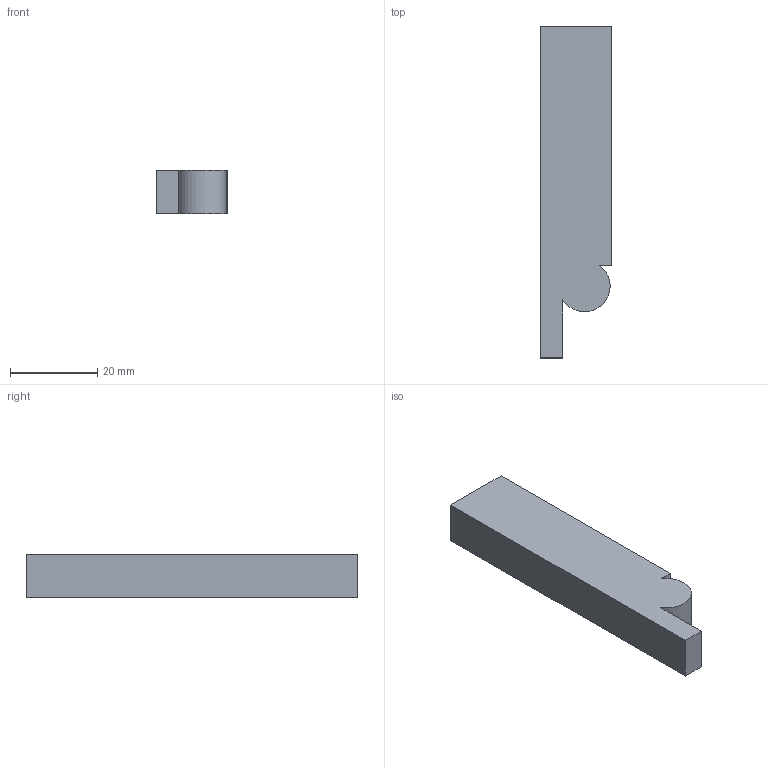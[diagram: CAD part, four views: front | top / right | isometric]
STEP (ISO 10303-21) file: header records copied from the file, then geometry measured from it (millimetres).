
FILE_DESCRIPTION (( 'STEP AP203' ), '1' );
FILE_NAME ('AB82FJ.STEP', '2024-02-16T18:04:12', ( '' ), ( '' ), 'SwSTEP 2.0', 'SolidWorks 2020', '' );
FILE_SCHEMA (( 'CONFIG_CONTROL_DESIGN' ));
Length unit declared in the file: millimetre
Products named in the file (1): AB82FJ
Bounding box: 16.35 x 76.2 x 10 mm (x, y, z)
Volume: 11090.4 mm3; surface area: 4113 mm2
Topology: 1 solids, 1 shells, 10 faces, 24 edges, 16 vertices
Faces by surface type: plane 9, cylinder 1
Entity records: 367 total; most frequent: CARTESIAN_POINT 51, DIRECTION 48, ORIENTED_EDGE 48, EDGE_CURVE 24, VECTOR 22, LINE 22, VERTEX_POINT 16, AXIS2_PLACEMENT_3D 13
